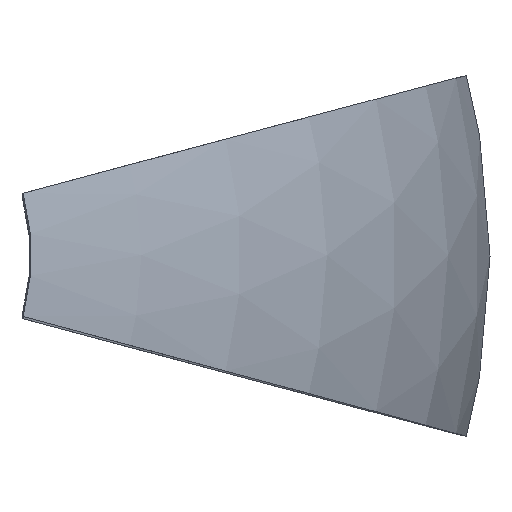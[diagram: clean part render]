
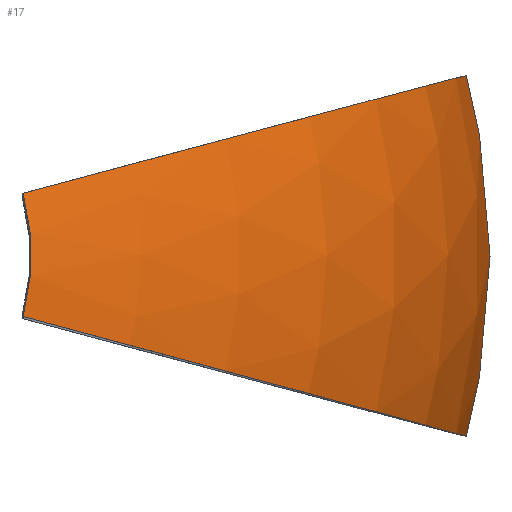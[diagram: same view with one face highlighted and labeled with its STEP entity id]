
A CAD part, top view. The second image highlights one B-rep face of the part: STEP entity #17.
In plain terms, the highlighted spherical face has radius 1000 mm.
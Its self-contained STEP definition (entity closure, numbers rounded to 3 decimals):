
#17 = ADVANCED_FACE('',(#18),#33,.T.);
#18 = FACE_BOUND('',#19,.F.);
#19 = EDGE_LOOP('',(#20,#56,#85,#114));
#20 = ORIENTED_EDGE('',*,*,#21,.T.);
#21 = EDGE_CURVE('',#22,#24,#26,.T.);
#22 = VERTEX_POINT('',#23);
#23 = CARTESIAN_POINT('',(330.366,-88.521,
    1939.693));
#24 = VERTEX_POINT('',#25);
#25 = CARTESIAN_POINT('',(330.366,88.521,
    1939.693));
#26 = SURFACE_CURVE('',#27,(#32,#44),.PCURVE_S1.);
#27 = CIRCLE('',#28,342.02);
#28 = AXIS2_PLACEMENT_3D('',#29,#30,#31);
#29 = CARTESIAN_POINT('',(0.,0.,1939.693));
#30 = DIRECTION('',(-0.,0.,1.));
#31 = DIRECTION('',(0.966,-0.259,0.));
#32 = PCURVE('',#33,#38);
#33 = SPHERICAL_SURFACE('',#34,1000.);
#34 = AXIS2_PLACEMENT_3D('',#35,#36,#37);
#35 = CARTESIAN_POINT('',(0.,0.,1000.));
#36 = DIRECTION('',(-0.,0.,-1.));
#37 = DIRECTION('',(0.966,-0.259,0.));
#38 = DEFINITIONAL_REPRESENTATION('',(#39),#43);
#39 = LINE('',#40,#41);
#40 = CARTESIAN_POINT('',(-0.,-1.222));
#41 = VECTOR('',#42,1.);
#42 = DIRECTION('',(-1.,0.));
#43 = ( GEOMETRIC_REPRESENTATION_CONTEXT(2) 
PARAMETRIC_REPRESENTATION_CONTEXT() REPRESENTATION_CONTEXT('2D SPACE',''
  ) );
#44 = PCURVE('',#45,#50);
#45 = CONICAL_SURFACE('',#46,340.31,0.349);
#46 = AXIS2_PLACEMENT_3D('',#47,#48,#49);
#47 = CARTESIAN_POINT('',(0.,0.,1934.994));
#48 = DIRECTION('',(0.,0.,1.));
#49 = DIRECTION('',(0.966,-0.259,0.));
#50 = DEFINITIONAL_REPRESENTATION('',(#51),#55);
#51 = LINE('',#52,#53);
#52 = CARTESIAN_POINT('',(0.,4.698));
#53 = VECTOR('',#54,1.);
#54 = DIRECTION('',(1.,0.));
#55 = ( GEOMETRIC_REPRESENTATION_CONTEXT(2) 
PARAMETRIC_REPRESENTATION_CONTEXT() REPRESENTATION_CONTEXT('2D SPACE',''
  ) );
#56 = ORIENTED_EDGE('',*,*,#57,.T.);
#57 = EDGE_CURVE('',#24,#58,#60,.T.);
#58 = VERTEX_POINT('',#59);
#59 = CARTESIAN_POINT('',(330.366,88.521,
    60.307));
#60 = SURFACE_CURVE('',#61,(#66,#73),.PCURVE_S1.);
#61 = CIRCLE('',#62,1000.);
#62 = AXIS2_PLACEMENT_3D('',#63,#64,#65);
#63 = CARTESIAN_POINT('',(0.,0.,1000.));
#64 = DIRECTION('',(-0.259,0.966,0.));
#65 = DIRECTION('',(0.33,0.089,0.94));
#66 = PCURVE('',#33,#67);
#67 = DEFINITIONAL_REPRESENTATION('',(#68),#72);
#68 = LINE('',#69,#70);
#69 = CARTESIAN_POINT('',(-0.524,-1.222));
#70 = VECTOR('',#71,1.);
#71 = DIRECTION('',(-0.,1.));
#72 = ( GEOMETRIC_REPRESENTATION_CONTEXT(2) 
PARAMETRIC_REPRESENTATION_CONTEXT() REPRESENTATION_CONTEXT('2D SPACE',''
  ) );
#73 = PCURVE('',#74,#79);
#74 = PLANE('',#75);
#75 = AXIS2_PLACEMENT_3D('',#76,#77,#78);
#76 = CARTESIAN_POINT('',(698.88,187.264,1000.));
#77 = DIRECTION('',(-0.259,0.966,0.));
#78 = DIRECTION('',(0.,0.,1.));
#79 = DEFINITIONAL_REPRESENTATION('',(#80),#84);
#80 = CIRCLE('',#81,1000.);
#81 = AXIS2_PLACEMENT_2D('',#82,#83);
#82 = CARTESIAN_POINT('',(0.,-723.533));
#83 = DIRECTION('',(0.94,0.342));
#84 = ( GEOMETRIC_REPRESENTATION_CONTEXT(2) 
PARAMETRIC_REPRESENTATION_CONTEXT() REPRESENTATION_CONTEXT('2D SPACE',''
  ) );
#85 = ORIENTED_EDGE('',*,*,#86,.F.);
#86 = EDGE_CURVE('',#87,#58,#89,.T.);
#87 = VERTEX_POINT('',#88);
#88 = CARTESIAN_POINT('',(330.366,-88.521,
    60.307));
#89 = SURFACE_CURVE('',#90,(#95,#102),.PCURVE_S1.);
#90 = CIRCLE('',#91,342.02);
#91 = AXIS2_PLACEMENT_3D('',#92,#93,#94);
#92 = CARTESIAN_POINT('',(0.,0.,60.307));
#93 = DIRECTION('',(-0.,0.,1.));
#94 = DIRECTION('',(0.966,-0.259,0.));
#95 = PCURVE('',#33,#96);
#96 = DEFINITIONAL_REPRESENTATION('',(#97),#101);
#97 = LINE('',#98,#99);
#98 = CARTESIAN_POINT('',(-0.,1.222));
#99 = VECTOR('',#100,1.);
#100 = DIRECTION('',(-1.,0.));
#101 = ( GEOMETRIC_REPRESENTATION_CONTEXT(2) 
PARAMETRIC_REPRESENTATION_CONTEXT() REPRESENTATION_CONTEXT('2D SPACE',''
  ) );
#102 = PCURVE('',#103,#108);
#103 = CONICAL_SURFACE('',#104,342.02,0.349);
#104 = AXIS2_PLACEMENT_3D('',#105,#106,#107);
#105 = CARTESIAN_POINT('',(0.,0.,60.307));
#106 = DIRECTION('',(-0.,-0.,-1.));
#107 = DIRECTION('',(0.966,-0.259,0.));
#108 = DEFINITIONAL_REPRESENTATION('',(#109),#113);
#109 = LINE('',#110,#111);
#110 = CARTESIAN_POINT('',(-0.,-0.));
#111 = VECTOR('',#112,1.);
#112 = DIRECTION('',(-1.,-0.));
#113 = ( GEOMETRIC_REPRESENTATION_CONTEXT(2) 
PARAMETRIC_REPRESENTATION_CONTEXT() REPRESENTATION_CONTEXT('2D SPACE',''
  ) );
#114 = ORIENTED_EDGE('',*,*,#115,.F.);
#115 = EDGE_CURVE('',#22,#87,#116,.T.);
#116 = SURFACE_CURVE('',#117,(#122,#129),.PCURVE_S1.);
#117 = CIRCLE('',#118,1000.);
#118 = AXIS2_PLACEMENT_3D('',#119,#120,#121);
#119 = CARTESIAN_POINT('',(0.,0.,1000.)
  );
#120 = DIRECTION('',(0.259,0.966,0.)
  );
#121 = DIRECTION('',(0.33,-0.089,0.94)
  );
#122 = PCURVE('',#33,#123);
#123 = DEFINITIONAL_REPRESENTATION('',(#124),#128);
#124 = LINE('',#125,#126);
#125 = CARTESIAN_POINT('',(-0.,-1.222));
#126 = VECTOR('',#127,1.);
#127 = DIRECTION('',(-0.,1.));
#128 = ( GEOMETRIC_REPRESENTATION_CONTEXT(2) 
PARAMETRIC_REPRESENTATION_CONTEXT() REPRESENTATION_CONTEXT('2D SPACE',''
  ) );
#129 = PCURVE('',#130,#135);
#130 = PLANE('',#131);
#131 = AXIS2_PLACEMENT_3D('',#132,#133,#134);
#132 = CARTESIAN_POINT('',(698.88,-187.264,1000.));
#133 = DIRECTION('',(0.259,0.966,0.));
#134 = DIRECTION('',(0.,0.,1.));
#135 = DEFINITIONAL_REPRESENTATION('',(#136),#140);
#136 = CIRCLE('',#137,1000.);
#137 = AXIS2_PLACEMENT_2D('',#138,#139);
#138 = CARTESIAN_POINT('',(0.,-723.533));
#139 = DIRECTION('',(0.94,0.342));
#140 = ( GEOMETRIC_REPRESENTATION_CONTEXT(2) 
PARAMETRIC_REPRESENTATION_CONTEXT() REPRESENTATION_CONTEXT('2D SPACE',''
  ) );
